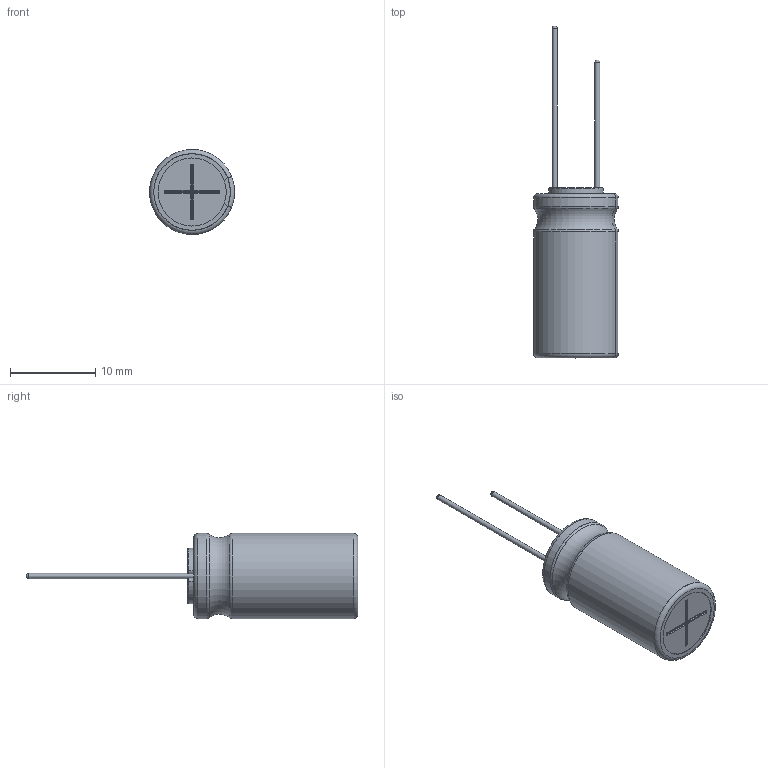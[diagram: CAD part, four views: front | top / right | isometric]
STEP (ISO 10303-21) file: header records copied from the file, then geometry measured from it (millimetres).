
FILE_DESCRIPTION(/* description */ (''),/* implementation_level */ '2;1');
FILE_NAME(/* name */ '10x20_Lead.stp',/* time_stamp */ '2017-09-05T14:10:41+09:00',/* author */ (''),/* organization */ (''),/* preprocessor_version */ 'ST-DEVELOPER v16',/* originating_system */ 'SIEMENS PLM Software NX 11.0',/* authorisation */ '');
FILE_SCHEMA (('AUTOMOTIVE_DESIGN { 1 0 10303 214 3 1 1 1 }'));
Length unit declared in the file: millimetre
Products named in the file (1): 10x20_Lead_0
Bounding box: 9.99 x 39 x 10 mm (x, y, z)
Volume: 1509.8 mm3; surface area: 2106.9 mm2
Topology: 3 solids, 3 shells, 115 faces, 288 edges, 181 vertices
Faces by surface type: cylinder 44, torus 33, plane 28, sphere 6, bspline 4
Full cylindrical faces by diameter (mm): 0.6 x2, 9.8 x2
Entity records: 4020 total; most frequent: CARTESIAN_POINT 680, DIRECTION 664, ORIENTED_EDGE 544, AXIS2_PLACEMENT_3D 280, EDGE_CURVE 272, VERTEX_POINT 176, CIRCLE 160, EDGE_LOOP 128
